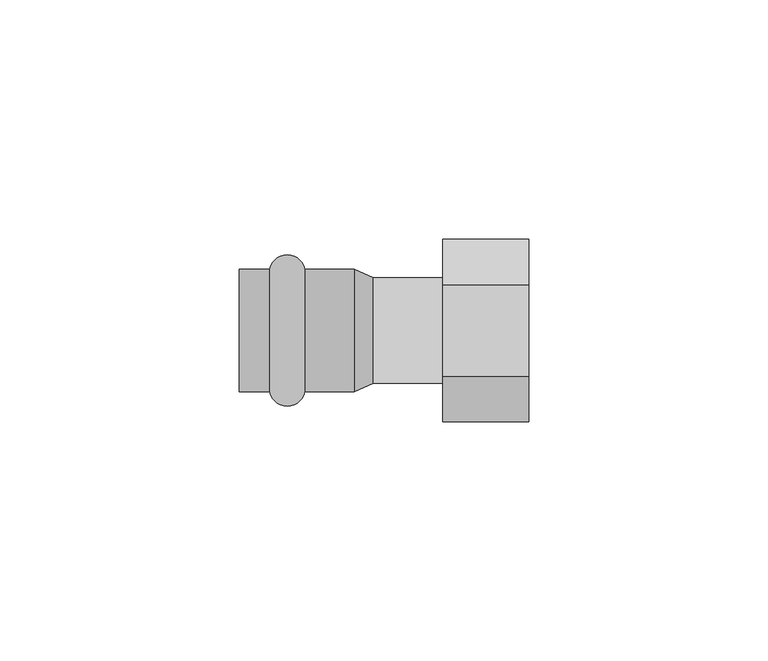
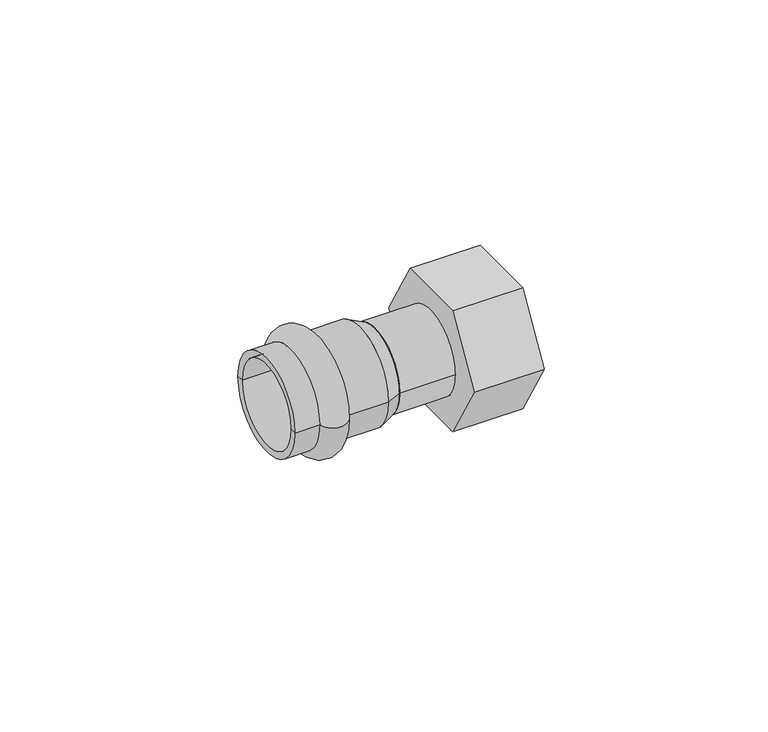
"""IFC4 building model written with IfcOpenShell, lengths in millimetres: pipe fitting geometry, VALTEC_VTi.908.I_Соединитель с накидной гайкой_Нержавеющая сталь : VTi.908.I."""

from ifc_helpers import new_model, si_unit, point, frame, origin, origin_2d, place, context, project, spatial, polyline, circle_curve, ellipse_curve, trimmed, segment, composite_curve, outline, extrude, source, transform, mapped, element, save
from ifc_brep_helpers import plane_surface, cylinder_surface, revolved_surface, advanced_brep


def pipe_fitting_c28bc2ba(model_context):
    return source(origin(), model_context, "Body", "SolidModel", [
        advanced_brep(
        [(-45.1242346, -12.8, 0.0), (-45.1242346, 12.8, 0.0), (-37.7757654, 12.8, 0.0), (-37.7757654, -12.8, 0.0), (-51.5, -12.8, 0.0), (-51.5, 12.8, 0.0), (-51.5, -11.0, 0.0), (-51.5, 11.0, 0.0), (-27.5, -11.0, 0.0), (-27.5, 11.0, 0.0), (-27.5, -12.8, 0.0), (-27.5, 12.8, 0.0)],
        [
            (0, 1, circle_curve(frame((-45.1242346, 0.0, 0.0), z_axis=(1.0, 0.0, 0.0), x_axis=(0.0, 1.0, 0.0)), 12.8)),
            (1, 2, circle_curve(frame((-41.45, 12.05, 0.0), z_axis=(0.0, 0.0, -1.0), x_axis=(1.0, 0.0, 0.0)), 3.75)),
            (2, 3, circle_curve(frame((-37.7757654, 0.0, 0.0), z_axis=(-1.0, 0.0, 0.0), x_axis=(0.0, 1.0, 0.0)), 12.8)),
            (3, 0, circle_curve(frame((-41.45, -12.05, 0.0), z_axis=(0.0, 0.0, -1.0), x_axis=(1.0, 0.0, 0.0)), 3.75)),
            (1, 0, circle_curve(frame((-45.1242346, 0.0, 0.0), z_axis=(1.0, 0.0, 0.0), x_axis=(0.0, 1.0, 0.0)), 12.8)),
            (3, 2, circle_curve(frame((-37.7757654, 0.0, 0.0), z_axis=(-1.0, 0.0, 0.0), x_axis=(0.0, 1.0, 0.0)), 12.8)),
            (4, 5, circle_curve(frame((-51.5, 0.0, 0.0), z_axis=(1.0, 0.0, 0.0), x_axis=(0.0, 1.0, 0.0)), 12.8)),
            (5, 1),
            (0, 4),
            (5, 4, circle_curve(frame((-51.5, 0.0, 0.0), z_axis=(1.0, 0.0, 0.0), x_axis=(0.0, 1.0, 0.0)), 12.8)),
            (6, 7, circle_curve(frame((-51.5, 0.0, 0.0), z_axis=(1.0, 0.0, 0.0), x_axis=(0.0, 1.0, 0.0)), 11.0)),
            (7, 5),
            (4, 6),
            (7, 6, circle_curve(frame((-51.5, 0.0, 0.0), z_axis=(1.0, 0.0, 0.0), x_axis=(0.0, 1.0, 0.0)), 11.0)),
            (8, 9, circle_curve(frame((-27.5, 0.0, 0.0), z_axis=(1.0, 0.0, 0.0), x_axis=(0.0, 1.0, 0.0)), 11.0)),
            (9, 7),
            (6, 8),
            (9, 8, circle_curve(frame((-27.5, 0.0, 0.0), z_axis=(1.0, 0.0, 0.0), x_axis=(0.0, 1.0, 0.0)), 11.0)),
            (10, 11, circle_curve(frame((-27.5, 0.0, 0.0), z_axis=(1.0, 0.0, 0.0), x_axis=(0.0, 1.0, 0.0)), 12.8)),
            (11, 9),
            (8, 10),
            (11, 10, circle_curve(frame((-27.5, 0.0, 0.0), z_axis=(1.0, 0.0, 0.0), x_axis=(0.0, 1.0, 0.0)), 12.8)),
            (2, 11),
            (10, 3),
        ],
        [
            revolved_surface(trimmed(ellipse_curve(frame((-41.45, 12.05, 0.0), z_axis=(0.0, 0.0, 1.0), x_axis=(1.0, 0.0, 0.0)), 3.75, 3.75), [point((-37.7757654, 12.8, 0.0))], [point((-45.1242346, 12.8, 0.0))], True, "CARTESIAN"), (-55.0364426, 0.0, 0.0), (-1.0, 0.0, 0.0)),
            cylinder_surface(frame((-55.0364426, 0.0, 0.0), z_axis=(-1.0, 0.0, 0.0), x_axis=(0.0, 1.0, 0.0)), 12.8),
            plane_surface(frame((-51.5, 0.0, 0.0), z_axis=(-1.0, 0.0, 0.0), x_axis=(0.0, 1.0, 0.0))),
            revolved_surface(polyline([(-51.5, 11.0, 0.0), (-27.5, 11.0, 0.0)]), (-55.0364426, 0.0, 0.0), (-1.0, 0.0, 0.0)),
            plane_surface(frame((-27.5, 0.0, 0.0), z_axis=(1.0, 0.0, 0.0), x_axis=(0.0, 1.0, 0.0))),
        ],
        [
            (0, [[1, 2, 3, 4]]),
            (0, [[5, -4, 6, -2]]),
            (1, [[7, 8, -1, 9]]),
            (1, [[10, -9, -5, -8]]),
            (2, [[11, 12, -7, 13]]),
            (2, [[14, -13, -10, -12]]),
            (3, [[15, 16, -11, 17]]),
            (3, [[18, -17, -14, -16]]),
            (4, [[19, 20, -15, 21]]),
            (4, [[22, -21, -18, -20]]),
            (1, [[-3, 23, -19, 24]]),
            (1, [[-6, -24, -22, -23]]),
        ],
    ),
        extrude(outline(polyline([(-19.0525589, 0.0), (-9.5262794, 16.5), (9.5262794, 16.5), (19.0525589, 0.0), (9.5262794, -16.5), (-9.5262794, -16.5), (-19.0525589, 0.0)])), frame((-9.0, 0.0, 0.0), z_axis=(1.0, 0.0, 0.0), x_axis=(0.0, 1.0, 0.0)), (0.0, 0.0, 1.0), 18.0),
        extrude(outline(composite_curve([segment(trimmed(circle_curve(origin_2d(), 11.0), [point((-11.0, 0.0))], [point((11.0, 0.0))], False, "CARTESIAN"), True, "CONTINUOUS"), segment(trimmed(circle_curve(origin_2d(), 11.0), [point((11.0, 0.0))], [point((-11.0, 0.0))], False, "CARTESIAN"), True, "CONTINUOUS")], self_intersect=False)), frame((-23.5, 0.0, 0.0), z_axis=(1.0, 0.0, 0.0), x_axis=(0.0, 1.0, 0.0)), (0.0, 0.0, 1.0), 15.0),
        advanced_brep(
        [(-23.5, -11.0, 0.0), (-23.5, 11.0, 0.0), (-27.5, -12.8, 0.0), (-27.5, 12.8, 0.0)],
        [
            (0, 1, circle_curve(frame((-23.5, 0.0, 0.0), z_axis=(1.0, 0.0, 0.0), x_axis=(0.0, -1.0, 0.0)), 11.0)),
            (1, 0, circle_curve(frame((-23.5, 0.0, 0.0), z_axis=(1.0, 0.0, 0.0), x_axis=(0.0, 1.0, 0.0)), 11.0)),
            (2, 3, circle_curve(frame((-27.5, 0.0, 0.0), z_axis=(-1.0, 0.0, 0.0), x_axis=(0.0, 1.0, 0.0)), 12.8)),
            (3, 2, circle_curve(frame((-27.5, 0.0, 0.0), z_axis=(-1.0, 0.0, 0.0), x_axis=(0.0, -1.0, 0.0)), 12.8)),
            (3, 1),
            (0, 2),
        ],
        [
            plane_surface(frame((-23.5, 0.0, 0.0), z_axis=(1.0, 0.0, 0.0), x_axis=(0.0, 0.0, -1.0))),
            plane_surface(frame((-27.5, 0.0, 0.0), z_axis=(-1.0, 0.0, 0.0), x_axis=(0.0, 0.0, -1.0))),
            revolved_surface(polyline([(-23.5, -10.999999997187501, 0.0), (-27.5, -12.8, 0.0)]), (0.9444444, 0.0, 0.0), (-1.0, 0.0, 0.0)),
            revolved_surface(polyline([(-23.5, 10.999999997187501, 0.0), (-27.5, 12.8, 0.0)]), (0.9444444, 0.0, 0.0), (-1.0, 0.0, 0.0)),
        ],
        [
            (0, [[1, 2]]),
            (1, [[3, 4]]),
            (2, [[-4, 5, -1, 6]]),
            (3, [[-3, -6, -2, -5]]),
        ],
    ),
    ])


if __name__ == "__main__":
    model = new_model("IFC4")
    model_context = context("Model", 3, world=origin())
    ifc_project = project(units=[si_unit("LENGTHUNIT", "METRE", prefix="MILLI")], contexts=[model_context])
    site = spatial("IfcSite", under=ifc_project)
    building = spatial("IfcBuilding", under=site)
    placement = place(None, origin())
    pipe_fitting_shape = pipe_fitting_c28bc2ba(model_context)
    element("IfcPipeFitting", 1, ObjectType="VALTEC_VTi.908.I_Соединитель с накидной гайкой_Нержавеющая сталь : VTi.908.I", at=placement, inside=building, context=model_context, shape_type="MappedRepresentation", body=[
        mapped(pipe_fitting_shape, transform((0.0, 0.0, 0.0), x_axis=(1.0, 0.0, 0.0), y_axis=(0.0, 1.0, 0.0), z_axis=(0.0, 0.0, 1.0))),
    ])
    save(model, "model.ifc")
